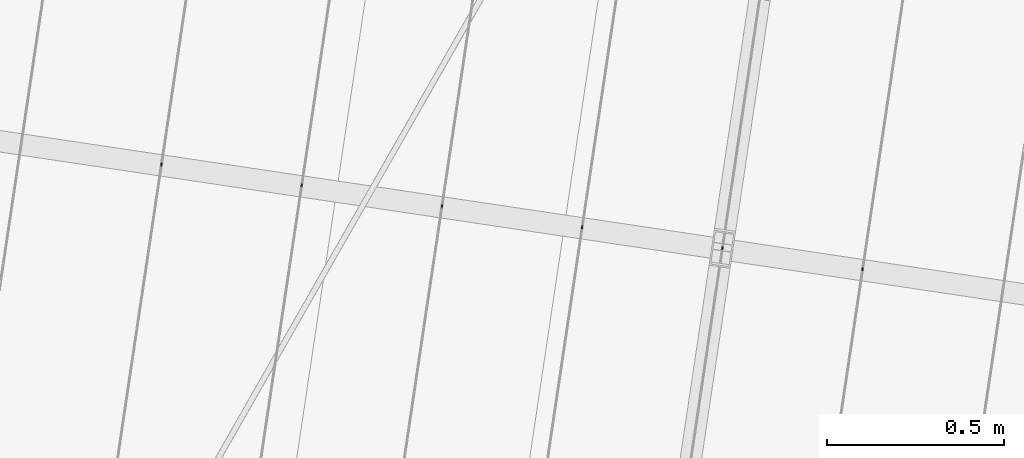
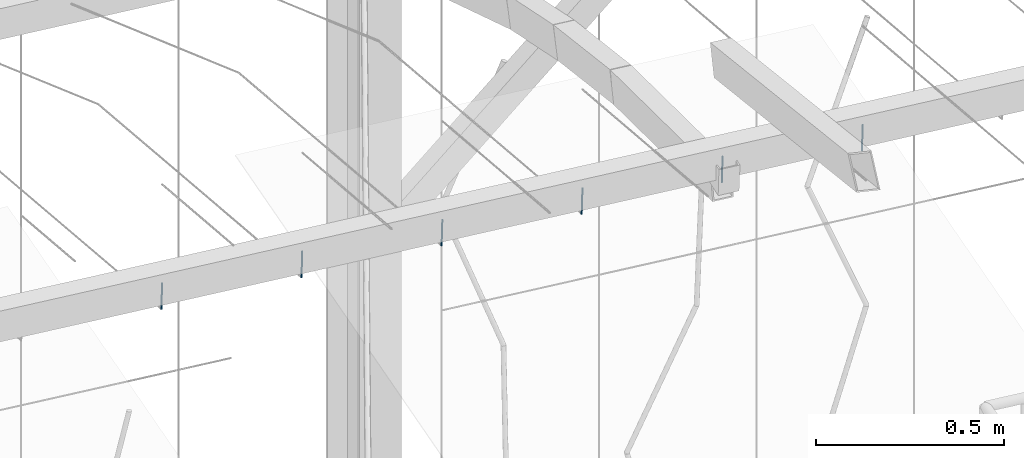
# One storey, part 127 of 142: 6 members, 1 element without a shape of its own.
"""IFC4 building model written with IfcOpenShell, lengths in metres."""

from ifc_helpers import new_model, si_unit, direction, frame, origin_with_axes, place, context, subcontext, project, spatial, circle, extrude, material, material_profile, profile_set, profile_usage, type_object, element, aggregate, save


model = new_model("IFC4")

# Units and contexts
model_context = context("Model", 3, precision=1e-05, world=origin_with_axes(), true_north=direction((0.0, 1.0)))
body_context = subcontext(model_context, "Body", "Model", "MODEL_VIEW")
ifc_project = project(units=[si_unit("VOLUMEUNIT", "CUBIC_METRE"), si_unit("LENGTHUNIT", "METRE"), si_unit("AREAUNIT", "SQUARE_METRE")], contexts=[model_context])

# Site, building, storey
site_placement = place(None, origin_with_axes())
site = spatial("IfcSite", under=ifc_project, at=site_placement, Name="Lares · Rua das Mercês · artigo 4771")
building_placement = place(site_placement, frame((12.0, 10.2, 13.9), z_axis=(0.0, 0.0, 1.0), x_axis=(0.989015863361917, -0.147809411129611, 0.0)))
building = spatial("IfcBuilding", under=site, at=building_placement, Name="Casa Sobreposta")
storey_placement = place(building_placement, origin_with_axes())
storey = spatial("IfcBuildingStorey", under=building, at=storey_placement, Name="00 · Habitação e estacionamento", Elevation=13.9)

# Assembly, members
assembly_placement = place(storey_placement, origin_with_axes())
assembly = element("IfcElementAssembly", 1, at=assembly_placement, inside=storey, Name="Pérgola · prolongamento da estufa 6 m", ObjectType="PERGOLA_GREENHOUSE_EXTENSION", PredefinedType="USERDEFINED")
ifc_material = material(Name="Aço galvanizado / Stahl verzinkt", Category="steel")
ifc_material_profile = material_profile(ifc_material, circle(Radius=0.002))
ifc_profile_set = profile_set([ifc_material_profile], Name="D0.004")
ifc_profile_usage_1 = profile_usage(ifc_profile_set)
member_type = type_object("IfcMemberType", Name="D0.004 / galvanized", PredefinedType="NOTDEFINED", material=ifc_profile_set)
member_1_placement = place(assembly_placement, frame((-4.6, 3.68002089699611, 7.30067689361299), z_axis=(0.0, 0.0651953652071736, -0.997872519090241), x_axis=(1.0, 0.0, 0.0)))
member_1 = element("IfcMember", 2, at=member_1_placement, type_object=member_type, material=ifc_profile_usage_1, Name="Pérgola · fio para trepadeiras", context=body_context, shape_type="SweptSolid", body=[
    extrude(circle(Radius=0.002), origin_with_axes(), (0.0, 0.0, 1.0), 0.0875840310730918),
])
ifc_profile_usage_2 = profile_usage(ifc_profile_set)
member_2_placement = place(assembly_placement, frame((-4.2, 3.68002089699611, 7.30067689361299), z_axis=(0.0, 0.0651953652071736, -0.997872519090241), x_axis=(1.0, 0.0, 0.0)))
member_2 = element("IfcMember", 3, at=member_2_placement, type_object=member_type, material=ifc_profile_usage_2, Name="Pérgola · fio para trepadeiras", context=body_context, shape_type="SweptSolid", body=[
    extrude(circle(Radius=0.002), origin_with_axes(), (0.0, 0.0, 1.0), 0.0875840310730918),
])
ifc_profile_usage_3 = profile_usage(ifc_profile_set)
member_3_placement = place(assembly_placement, frame((-3.8, 3.68002089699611, 7.30067689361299), z_axis=(0.0, 0.0651953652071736, -0.997872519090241), x_axis=(1.0, 0.0, 0.0)))
member_3 = element("IfcMember", 4, at=member_3_placement, type_object=member_type, material=ifc_profile_usage_3, Name="Pérgola · fio para trepadeiras", context=body_context, shape_type="SweptSolid", body=[
    extrude(circle(Radius=0.002), origin_with_axes(), (0.0, 0.0, 1.0), 0.0875840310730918),
])
ifc_profile_usage_4 = profile_usage(ifc_profile_set)
member_4_placement = place(assembly_placement, frame((-3.4, 3.68002089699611, 7.30067689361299), z_axis=(0.0, 0.0651953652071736, -0.997872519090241), x_axis=(1.0, 0.0, 0.0)))
member_4 = element("IfcMember", 5, at=member_4_placement, type_object=member_type, material=ifc_profile_usage_4, Name="Pérgola · fio para trepadeiras", context=body_context, shape_type="SweptSolid", body=[
    extrude(circle(Radius=0.002), origin_with_axes(), (0.0, 0.0, 1.0), 0.0875840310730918),
])
ifc_profile_usage_5 = profile_usage(ifc_profile_set)
member_5_placement = place(assembly_placement, frame((-3.0, 3.68002089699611, 7.30067689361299), z_axis=(0.0, 0.0651953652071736, -0.997872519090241), x_axis=(1.0, 0.0, 0.0)))
member_5 = element("IfcMember", 6, at=member_5_placement, type_object=member_type, material=ifc_profile_usage_5, Name="Pérgola · fio para trepadeiras", context=body_context, shape_type="SweptSolid", body=[
    extrude(circle(Radius=0.002), origin_with_axes(), (0.0, 0.0, 1.0), 0.0875840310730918),
])
ifc_profile_usage_6 = profile_usage(ifc_profile_set)
member_6_placement = place(assembly_placement, frame((-2.6, 3.68002089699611, 7.30067689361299), z_axis=(0.0, 0.0651953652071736, -0.997872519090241), x_axis=(1.0, 0.0, 0.0)))
member_6 = element("IfcMember", 7, at=member_6_placement, type_object=member_type, material=ifc_profile_usage_6, Name="Pérgola · fio para trepadeiras", context=body_context, shape_type="SweptSolid", body=[
    extrude(circle(Radius=0.002), origin_with_axes(), (0.0, 0.0, 1.0), 0.0875840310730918),
])
aggregate(assembly, [member_1, member_2, member_3, member_4, member_5, member_6])

save(model, "model.ifc")
